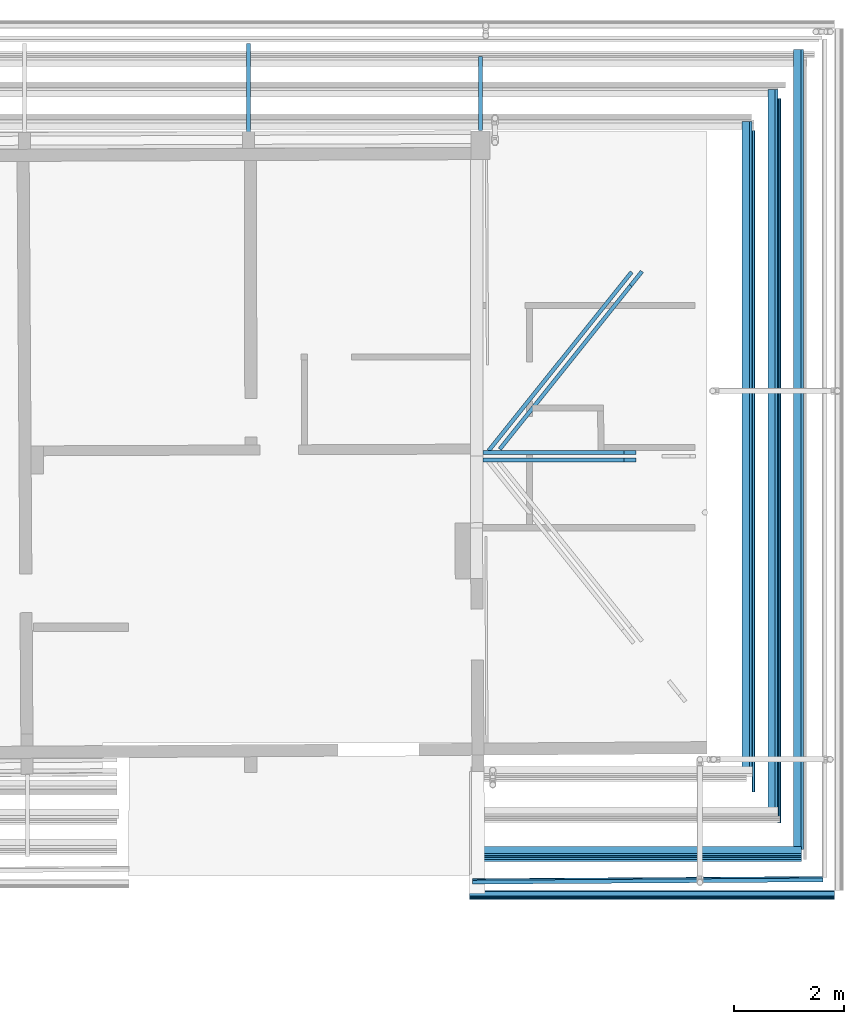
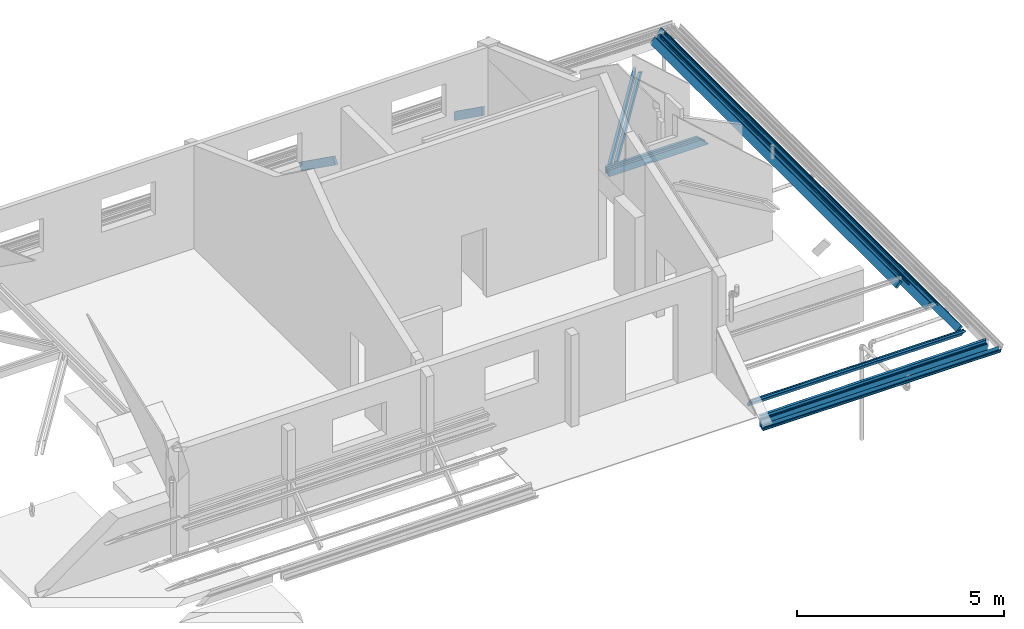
# One storey, part 5 of 15: 16 beams.
"""IFC2X3 building model written with IfcOpenShell, lengths in centimetres."""

from ifc_helpers import new_model, entity, si_unit, converted_unit, direction, frame, frame_2d, origin, place, context, subcontext, project, spatial, polyline, circle_curve, parameter, trimmed, segment, composite_curve, rectangle, outline, extrude, clip, halfspace, material, type_object, element, save


model = new_model("IFC2X3")

# Units and contexts
model_context = context("Model", 3, precision=0.001, world=frame((0.0, 0.0, 13090.0)), true_north=direction((6.123233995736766e-17, 1.0)))
body_context = subcontext(model_context, "Body", "Model", "MODEL_VIEW")
ifc_project = project(units=[si_unit("LENGTHUNIT", "METRE", prefix="CENTI"), si_unit("AREAUNIT", "SQUARE_METRE"), si_unit("VOLUMEUNIT", "CUBIC_METRE"), converted_unit("PLANEANGLEUNIT", "DEGREE", entity("IfcPlaneAngleMeasure", 0.017453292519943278), si_unit("PLANEANGLEUNIT", "RADIAN"), dimensions=[0, 0, 0, 0, 0, 0, 0])], contexts=[model_context])

# Site, building, storey
site_placement = place(None, origin())
site = spatial("IfcSite", under=ifc_project, at=site_placement, Name="Default", CompositionType="ELEMENT")
building_placement = place(site_placement, origin())
building = spatial("IfcBuilding", under=site, at=building_placement, Name="e 39 logements et 22 maisons relais", CompositionType="ELEMENT")
storey_placement = place(building_placement, frame((0.0, 0.0, 340.0)))
storey = spatial("IfcBuildingStorey", under=building, at=storey_placement, Name="R+1", CompositionType="ELEMENT", Elevation=339.99999999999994)

# Beams
ifc_material_1 = material(Name="Bois - Bois de construction de dimensions courantes")
beam_type_1 = type_object("IfcBeamType", Name="Poutre - Bois de construction de dimensions courantes:70 220", PredefinedType="BEAM")
beam_1_placement = place(storey_placement, frame((293.85058931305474, -746.0791297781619, 21.67532514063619)))
element("IfcBeam", 1, at=beam_1_placement, inside=storey, type_object=beam_type_1, material=ifc_material_1, Name="Poutre - Bois de construction de dimensions courantes:70 220", ObjectType="Poutre - Bois de construction de dimensions courantes:70 220", context=body_context, shape_type="SweptSolid", body=[
    extrude(rectangle(XDim=21.999999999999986, YDim=7.000000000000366, at=frame_2d((7.993605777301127e-15, 5.995204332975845e-14), x_axis=(1.0, 0.0))), frame((295.29196854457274, 6.309340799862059, -9.010672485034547), z_axis=(1.0, 0.0, 0.0), x_axis=(0.0, -0.5735764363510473, 0.819152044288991)), (0.0, 0.0, 1.0), 596.500667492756),
])
beam_2_placement = place(storey_placement, frame((182.75216677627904, 773.5851912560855, 29.76606766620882), z_axis=(0.0, 0.5804591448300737, 0.8142893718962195), x_axis=(0.0, -0.8142893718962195, 0.5804591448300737)))
element("IfcBeam", 2, at=beam_2_placement, inside=storey, type_object=beam_type_1, material=ifc_material_1, Name="Poutre - Bois de construction de dimensions courantes:70 220", ObjectType="Poutre - Bois de construction de dimensions courantes:70 220", context=body_context, shape_type="SweptSolid", body=[
    extrude(rectangle(XDim=22.000000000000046, YDim=7.00000000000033, at=frame_2d((-2.220446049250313e-14, -2.708944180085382e-14), x_axis=(1.0, 0.0))), frame((10.090585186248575, 0.0, -80.0), z_axis=(1.0, 0.0, 0.0), x_axis=(0.0, 0.0, -1.0)), (0.0, 0.0, 1.0), 201.65636044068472),
])
beam_3_placement = place(storey_placement, frame((603.4705547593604, 773.5851912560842, 29.76606766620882), z_axis=(0.0, 0.5804591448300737, 0.8142893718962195), x_axis=(0.0, -0.8142893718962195, 0.5804591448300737)))
element("IfcBeam", 3, at=beam_3_placement, inside=storey, type_object=beam_type_1, material=ifc_material_1, Name="Poutre - Bois de construction de dimensions courantes:70 220", ObjectType="Poutre - Bois de construction de dimensions courantes:70 220", context=body_context, shape_type="Clipping", body=[
    clip(clip(extrude(rectangle(XDim=22.000000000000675, YDim=7.000000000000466, at=frame_2d((-1.7319479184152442e-13, -5.417888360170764e-14), x_axis=(1.0, 0.0))), frame((22.397608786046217, 0.0, -80.0), z_axis=(1.0, 0.0, 0.0), x_axis=(0.0, 0.0, -1.0)), (0.0, 0.0, 1.0), 181.2427785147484), halfspace(frame((178.35627817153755, 211.71323505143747, -104.46947537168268), z_axis=(0.8142893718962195, 0.0, -0.5804591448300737), x_axis=(0.0, -1.0, 0.0)), False)), halfspace(frame((49.83773262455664, 211.71323505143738, -52.50598814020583), z_axis=(-0.8142893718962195, 0.0, 0.5804591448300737), x_axis=(0.0, -1.0, 0.0)), False)),
])
beam_4_placement = place(storey_placement, frame((293.8835695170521, -797.1111855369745, -1.3072963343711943), z_axis=(-2.1815716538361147e-05, -1.395159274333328e-07, 1.0), x_axis=(0.999979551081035, 0.006395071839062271, 2.1816162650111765e-05)))
element("IfcBeam", 4, at=beam_4_placement, inside=storey, type_object=beam_type_1, material=ifc_material_1, Name="Poutre - Bois de construction de dimensions courantes:70 220", ObjectType="Poutre - Bois de construction de dimensions courantes:70 220", context=body_context, shape_type="SweptSolid", body=[
    extrude(rectangle(XDim=21.999999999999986, YDim=7.000000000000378, at=frame_2d((2.6645352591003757e-14, -1.6231460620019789e-13), x_axis=(1.0, 0.0))), frame((295.29196854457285, 0.0, -10.999999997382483), z_axis=(1.0, 0.0, 0.0), x_axis=(0.0, 0.0, -1.0)), (0.0, 0.0, 1.0), 635.6494773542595),
])
beam_type_2 = type_object("IfcBeamType", Name="Poutre - Bois de construction de dimensions courantes:70 200", PredefinedType="BEAM")
beam_5_placement = place(storey_placement, frame((1187.0952202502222, 514.0076677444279, 29.635456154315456), z_axis=(0.0, 0.0, 1.0), x_axis=(0.0, -1.0, 0.0)))
element("IfcBeam", 5, at=beam_5_placement, inside=storey, type_object=beam_type_2, material=ifc_material_1, Name="Poutre - Bois de construction de dimensions courantes:70 200", ObjectType="Poutre - Bois de construction de dimensions courantes:70 200", context=body_context, shape_type="SweptSolid", body=[
    extrude(rectangle(XDim=20.00000000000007, YDim=7.000000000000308, at=frame_2d((7.238654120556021e-14, -7.993605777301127e-14), x_axis=(0.0, 1.0))), frame((-201.2318770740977, -6.691306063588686, -7.431448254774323), z_axis=(1.0, 0.0, 0.0), x_axis=(0.0, -0.7431448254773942, 0.6691306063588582)), (0.0, 0.0, 1.0), 1450.8088562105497),
])
beam_6_placement = place(storey_placement, frame((1140.4973745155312, 514.0076677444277, 71.51492485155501), z_axis=(0.0, 0.0, 1.0), x_axis=(0.0, -1.0, 0.0)))
element("IfcBeam", 6, at=beam_6_placement, inside=storey, type_object=beam_type_2, material=ifc_material_1, Name="Poutre - Bois de construction de dimensions courantes:70 200", ObjectType="Poutre - Bois de construction de dimensions courantes:70 200", context=body_context, shape_type="SweptSolid", body=[
    extrude(rectangle(XDim=20.000000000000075, YDim=7.000000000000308, at=frame_2d((3.6193270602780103e-14, -3.9968028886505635e-14), x_axis=(0.0, 1.0))), frame((-128.41320221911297, -6.691306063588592, -7.431448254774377), z_axis=(1.0, 0.0, 0.0), x_axis=(0.0, -0.7431448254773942, 0.6691306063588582)), (0.0, 0.0, 1.0), 1307.4177645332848),
])
beam_7_placement = place(storey_placement, frame((1093.6531846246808, 514.0076677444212, 113.51706608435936), z_axis=(0.0, 0.0, 1.0), x_axis=(0.0, -1.0, 0.0)))
element("IfcBeam", 7, at=beam_7_placement, inside=storey, type_object=beam_type_2, material=ifc_material_1, Name="Poutre - Bois de construction de dimensions courantes:70 200", ObjectType="Poutre - Bois de construction de dimensions courantes:70 200", context=body_context, shape_type="SweptSolid", body=[
    extrude(rectangle(XDim=20.000000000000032, YDim=7.000000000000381, at=frame_2d((-1.8207657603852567e-14, 1.9539925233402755e-14), x_axis=(0.0, 1.0))), frame((-70.66046009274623, -6.6913060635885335, -7.431448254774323), z_axis=(1.0, 0.0, 0.0), x_axis=(0.0, -0.7431448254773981, 0.669130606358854)), (0.0, 0.0, 1.0), 1188.2496799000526),
])
beam_8_placement = place(storey_placement, frame((728.2454692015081, -15.897903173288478, 266.32572503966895)))
element("IfcBeam", 8, at=beam_8_placement, inside=storey, type_object=beam_type_2, material=ifc_material_1, Name="Poutre - Bois de construction de dimensions courantes:70 200", ObjectType="Poutre - Bois de construction de dimensions courantes:70 200", context=body_context, shape_type="Clipping", body=[
    clip(extrude(rectangle(XDim=20.000000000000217, YDim=7.0000000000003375, at=frame_2d((-1.0835776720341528e-13, -1.7763568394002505e-15), x_axis=(1.0, 0.0))), frame((-120.55536861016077, 0.0, -10.0), z_axis=(1.0, 0.0, 0.0), x_axis=(0.0, 0.0, -1.0)), (0.0, 0.0, 1.0), 277.9261440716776), halfspace(frame((213.5542229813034, 342.05536861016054, -70.37604670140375), z_axis=(0.6675793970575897, 0.0, 0.7445386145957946), x_axis=(0.0, -1.0, 0.0)), False)),
])
beam_9_placement = place(storey_placement, frame((728.245469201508, -29.897903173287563, 266.32572503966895)))
element("IfcBeam", 9, at=beam_9_placement, inside=storey, type_object=beam_type_2, material=ifc_material_1, Name="Poutre - Bois de construction de dimensions courantes:70 200", ObjectType="Poutre - Bois de construction de dimensions courantes:70 200", context=body_context, shape_type="Clipping", body=[
    clip(extrude(rectangle(XDim=20.0, YDim=7.0000000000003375, at=frame_2d((0.0, -3.3306690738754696e-15), x_axis=(1.0, 0.0))), frame((-120.55536861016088, 0.0, -10.0), z_axis=(1.0, 0.0, 0.0), x_axis=(0.0, 0.0, -1.0)), (0.0, 0.0, 1.0), 277.9261440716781), halfspace(frame((213.55422298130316, 342.0553686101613, -70.37604670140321), z_axis=(0.6675793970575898, 0.0, 0.7445386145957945), x_axis=(0.0, -1.0, 0.0)), False)),
])
beam_10_placement = place(storey_placement, frame((688.1425548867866, 74.55343933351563, 266.32572503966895), z_axis=(0.0, 0.0, 1.0), x_axis=(0.6248402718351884, 0.7807526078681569, 0.0)))
element("IfcBeam", 10, at=beam_10_placement, inside=storey, type_object=beam_type_2, material=ifc_material_1, Name="Poutre - Bois de construction de dimensions courantes:70 200", ObjectType="Poutre - Bois de construction de dimensions courantes:70 200", context=body_context, shape_type="SweptSolid", body=[
    extrude(rectangle(XDim=20.0, YDim=7.000000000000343, at=frame_2d((0.0, -4.218847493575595e-15), x_axis=(1.0, 0.0))), frame((-111.60966560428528, 0.0, -10.0), z_axis=(1.0, 0.0, 0.0), x_axis=(0.0, 0.0, -1.0)), (0.0, 0.0, 1.0), 414.889912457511),
])
beam_11_placement = place(storey_placement, frame((699.073091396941, 65.80567552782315, 266.32572503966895), z_axis=(0.0, 0.0, 1.0), x_axis=(0.6248402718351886, 0.7807526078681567, 0.0)))
element("IfcBeam", 11, at=beam_11_placement, inside=storey, type_object=beam_type_2, material=ifc_material_1, Name="Poutre - Bois de construction de dimensions courantes:70 200", ObjectType="Poutre - Bois de construction de dimensions courantes:70 200", context=body_context, shape_type="Clipping", body=[
    clip(extrude(rectangle(XDim=20.0, YDim=7.000000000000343, at=frame_2d((4.218847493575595e-15, 0.0), x_axis=(0.0, 1.0))), frame((-97.10025792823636, 0.0, -10.0), z_axis=(1.0, 0.0, 0.0), x_axis=(0.0, 1.0, 0.0)), (0.0, 0.0, 1.0), 412.8013420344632), halfspace(frame((221.00747817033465, -412.8013420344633, 34.89691046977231), z_axis=(0.49070508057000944, 0.0, 0.8713257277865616), x_axis=(0.0, 1.0, 0.0)), False)),
])
ifc_material_2 = material(Name="neuf")
beam_type_3 = type_object("IfcBeamType", Name="gouttiere ALU G400:gouttiere ALU G400", PredefinedType="BEAM")
beam_12_placement = place(storey_placement, frame((741.669739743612, -810.895504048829, 16.283780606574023), z_axis=(0.0, 0.0, 1.0), x_axis=(-1.0, 0.0, 0.0)))
element("IfcBeam", 12, at=beam_12_placement, inside=storey, type_object=beam_type_3, material=ifc_material_2, Name="gouttiere ALU G400:gouttiere ALU G400", ObjectType="gouttiere ALU G400:gouttiere ALU G400", context=body_context, shape_type="SweptSolid", body=[
    extrude(outline(composite_curve([segment(polyline([(-6.028675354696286, -10.41814447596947), (4.91512518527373, -10.418144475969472)]), True, "CONTINUOUS"), segment(trimmed(circle_curve(frame_2d((4.482502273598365, -7.967211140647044), x_axis=(0.17382635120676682, -0.9847763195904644)), 2.4888223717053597), [parameter(0.0)], [parameter(79.98963375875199)], True, "PARAMETER"), True, "CONTINUOUS"), segment(polyline([(6.971324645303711, -7.96721114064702), (6.97132464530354, -1.467211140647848)]), True, "CONTINUOUS"), segment(trimmed(circle_curve(frame_2d((5.604531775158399, -1.4672111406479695), x_axis=(1.0, 0.0)), 1.366792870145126), [parameter(0.0)], [parameter(80.76228289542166)], True, "PARAMETER"), True, "CONTINUOUS"), segment(polyline([(5.823944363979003, -0.11814447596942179), (4.73839450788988, -0.11814447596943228)]), True, "CONTINUOUS"), segment(trimmed(circle_curve(frame_2d((4.738394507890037, 0.5488704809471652), x_axis=(0.0, -1.0)), 0.6670149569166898), [parameter(270.00000000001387)], [parameter(0.0)], True, "PARAMETER"), False, "CONTINUOUS"), segment(trimmed(circle_curve(frame_2d((2.6511667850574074, 0.5488704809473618), x_axis=(1.0, 0.0)), 1.4202127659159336), [parameter(0.0)], [parameter(75.70274320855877)], True, "PARAMETER"), True, "CONTINUOUS"), segment(polyline([(3.001892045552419, 1.9250957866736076), (-3.028080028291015, 2.8687394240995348)]), True, "CONTINUOUS"), segment(trimmed(circle_curve(frame_2d((-2.8287143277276, 3.633036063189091), x_axis=(-0.2524028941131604, -0.967622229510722)), 0.7898708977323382), [parameter(284.61974875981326)], [parameter(0.0)], True, "PARAMETER"), False, "CONTINUOUS"), segment(polyline([(-3.6185852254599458, 3.6330360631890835), (-3.6185852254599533, 4.392159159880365)]), True, "CONTINUOUS"), segment(trimmed(circle_curve(frame_2d((-4.410064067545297, 4.392159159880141), x_axis=(1.0, 0.0)), 0.7914788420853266), [parameter(0.0)], [parameter(89.9999999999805)], True, "PARAMETER"), True, "CONTINUOUS"), segment(polyline([(-4.410064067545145, 5.183638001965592), (-4.596964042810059, 5.1836380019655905)]), True, "CONTINUOUS"), segment(trimmed(circle_curve(frame_2d((-4.596964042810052, 4.455817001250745), x_axis=(0.0, 1.0)), 0.7278210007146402), [parameter(0.0)], [parameter(90.00000000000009)], True, "PARAMETER"), True, "CONTINUOUS"), segment(polyline([(-5.324785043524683, 4.455817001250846), (-5.5097352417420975, 2.7163227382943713)]), True, "CONTINUOUS"), segment(polyline([(-5.5097352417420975, 2.7163227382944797), (-5.30863358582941, 2.7163227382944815)]), True, "CONTINUOUS"), segment(polyline([(-5.30863358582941, 2.7163227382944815), (-5.126213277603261, 4.451936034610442)]), True, "CONTINUOUS"), segment(trimmed(circle_curve(frame_2d((-4.596293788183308, 4.451936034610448), x_axis=(-1.0, 0.0)), 0.5299194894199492), [parameter(269.99999999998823)], [parameter(0.0)], True, "PARAMETER"), False, "CONTINUOUS"), segment(polyline([(-4.5962937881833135, 4.981855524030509), (-4.409626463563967, 4.981855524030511)]), True, "CONTINUOUS"), segment(trimmed(circle_curve(frame_2d((-4.409626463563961, 4.391273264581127), x_axis=(0.0, 1.0)), 0.5905822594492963), [parameter(269.9999999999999)], [parameter(0.0)], True, "PARAMETER"), False, "CONTINUOUS"), segment(polyline([(-3.81904420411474, 4.3912732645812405), (-3.8190442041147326, 3.633116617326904)]), True, "CONTINUOUS"), segment(trimmed(circle_curve(frame_2d((-2.828956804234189, 3.633116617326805), x_axis=(-1.0, 0.0)), 0.99008739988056), [parameter(0.0)], [parameter(75.99999999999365)], True, "PARAMETER"), True, "CONTINUOUS"), segment(polyline([(-3.068480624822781, 2.6724390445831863), (2.9612947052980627, 1.7290144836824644)]), True, "CONTINUOUS"), segment(trimmed(circle_curve(frame_2d((2.6511667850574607, 0.5488704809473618), x_axis=(0.2541588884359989, 0.9671624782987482)), 1.2202127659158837), [parameter(284.72375106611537)], [parameter(0.0)], True, "PARAMETER"), False, "CONTINUOUS"), segment(trimmed(circle_curve(frame_2d((4.738394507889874, 0.5488704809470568), x_axis=(-1.0, 0.0)), 0.8670149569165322), [parameter(0.0)], [parameter(90.00000000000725)], True, "PARAMETER"), True, "CONTINUOUS"), segment(polyline([(4.738394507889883, -0.31814447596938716), (5.80714323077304, -0.31814447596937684)]), True, "CONTINUOUS"), segment(trimmed(circle_curve(frame_2d((5.6045317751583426, -1.4672111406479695), x_axis=(0.17364817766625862, 0.9848077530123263)), 1.166792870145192), [parameter(279.9999999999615)], [parameter(0.0)], True, "PARAMETER"), False, "CONTINUOUS"), segment(polyline([(6.771324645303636, -1.4672111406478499), (6.771324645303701, -7.96721114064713)]), True, "CONTINUOUS"), segment(trimmed(circle_curve(frame_2d((4.4825022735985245, -7.967211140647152), x_axis=(1.0, 0.0)), 2.2888223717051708), [parameter(280.43973077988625)], [parameter(0.0)], True, "PARAMETER"), False, "CONTINUOUS"), segment(polyline([(4.897239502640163, -10.218144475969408), (-6.028675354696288, -10.218144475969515)]), True, "CONTINUOUS"), segment(polyline([(-6.028675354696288, -10.218144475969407), (-6.028675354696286, -10.41814447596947)]), True, "CONTINUOUS")], self_intersect=False)), frame((-504.036911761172, 10.21814447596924, -27.028675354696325), z_axis=(1.0, 0.0, 0.0), x_axis=(0.0, 0.0, -1.0)), (0.0, 0.0, 1.0), 662.3108487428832),
])
beam_type_4 = type_object("IfcBeamType", Name="panne z:panne z", PredefinedType="BEAM")
beam_13_placement = place(storey_placement, frame((1157.6124503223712, 514.0076677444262, 94.92918457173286), z_axis=(0.0, 0.0, 1.0), x_axis=(0.0, -1.0, 0.0)))
element("IfcBeam", 13, at=beam_13_placement, inside=storey, type_object=beam_type_4, material=ifc_material_2, Name="panne z:panne z", ObjectType="panne z:panne z", context=body_context, shape_type="SweptSolid", body=[
    extrude(outline(composite_curve([segment(polyline([(0.3000000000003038, -3.0), (4.600000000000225, -3.0)]), True, "CONTINUOUS"), segment(trimmed(circle_curve(frame_2d((4.600000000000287, -2.5999999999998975), x_axis=(0.0, -1.0)), 0.3999999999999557), [parameter(0.0)], [parameter(90.00000000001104)], True, "PARAMETER"), True, "CONTINUOUS"), segment(polyline([(5.0, -2.599999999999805), (5.0, -1.0)]), True, "CONTINUOUS"), segment(polyline([(5.0, -1.0), (4.800000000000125, -1.0)]), True, "CONTINUOUS"), segment(polyline([(4.800000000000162, -1.0), (4.800000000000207, -2.5999999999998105)]), True, "CONTINUOUS"), segment(trimmed(circle_curve(frame_2d((4.600000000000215, -2.5999999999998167), x_axis=(1.0, 0.0)), 0.2000000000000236), [parameter(270.0000000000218)], [parameter(0.0)], True, "PARAMETER"), False, "CONTINUOUS"), segment(polyline([(4.600000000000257, -2.799999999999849), (0.3000000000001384, -2.79999999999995)]), True, "CONTINUOUS"), segment(trimmed(circle_curve(frame_2d((0.3000000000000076, -2.600000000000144), x_axis=(0.0, -1.0)), 0.19999999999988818), [parameter(269.9999999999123)], [parameter(0.0)], True, "PARAMETER"), False, "CONTINUOUS"), segment(polyline([(0.10000000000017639, -2.6000000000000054), (0.1000000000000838, 2.6000000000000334)]), True, "CONTINUOUS"), segment(trimmed(circle_curve(frame_2d((-0.30000000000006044, 2.599999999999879), x_axis=(1.0, 0.0)), 0.4000000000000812), [parameter(0.0)], [parameter(89.99999999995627)], True, "PARAMETER"), True, "CONTINUOUS"), segment(polyline([(-0.2999999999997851, 3.0), (-4.599999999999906, 3.0)]), True, "CONTINUOUS"), segment(trimmed(circle_curve(frame_2d((-4.599999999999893, 2.6000000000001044), x_axis=(0.0, 1.0)), 0.3999999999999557), [parameter(0.0)], [parameter(90.00000000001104)], True, "PARAMETER"), True, "CONTINUOUS"), segment(polyline([(-5.0, 2.600000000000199), (-5.0, 1.0)]), True, "CONTINUOUS"), segment(polyline([(-5.0, 1.0), (-4.7999999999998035, 1.0)]), True, "CONTINUOUS"), segment(polyline([(-4.7999999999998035, 1.0), (-4.7999999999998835, 2.600000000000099)]), True, "CONTINUOUS"), segment(trimmed(circle_curve(frame_2d((-4.599999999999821, 2.6000000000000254), x_axis=(-1.0, 0.0)), 0.2000000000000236), [parameter(270.0000000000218)], [parameter(0.0)], True, "PARAMETER"), False, "CONTINUOUS"), segment(polyline([(-4.599999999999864, 2.800000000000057), (-0.29999999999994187, 2.8000000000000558)]), True, "CONTINUOUS"), segment(trimmed(circle_curve(frame_2d((-0.29999999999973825, 2.600000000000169), x_axis=(0.0, 1.0)), 0.19999999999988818), [parameter(269.9999999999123)], [parameter(0.0)], True, "PARAMETER"), False, "CONTINUOUS"), segment(polyline([(-0.0999999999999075, 2.600000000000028), (-0.09999999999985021, -2.5999999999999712)]), True, "CONTINUOUS"), segment(trimmed(circle_curve(frame_2d((0.30000000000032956, -2.599999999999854), x_axis=(-1.0, 0.0)), 0.4000000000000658), [parameter(0.0)], [parameter(89.99999999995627)], True, "PARAMETER"), True, "CONTINUOUS")], self_intersect=False)), frame((-112.27329190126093, -12.500988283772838, -13.883754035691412), z_axis=(1.0, 0.0, 0.0), x_axis=(0.0, -0.7431448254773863, 0.6691306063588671)), (0.0, 0.0, 1.0), 1314.393028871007),
])
beam_14_placement = place(storey_placement, frame((1111.059399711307, 514.007667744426, 136.63156832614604), z_axis=(0.0, 0.0, 1.0), x_axis=(0.0, -1.0, 0.0)))
element("IfcBeam", 14, at=beam_14_placement, inside=storey, type_object=beam_type_4, material=ifc_material_2, Name="panne z:panne z", ObjectType="panne z:panne z", context=body_context, shape_type="SweptSolid", body=[
    extrude(outline(composite_curve([segment(polyline([(0.2999999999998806, -3.0), (4.599999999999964, -3.0)]), True, "CONTINUOUS"), segment(trimmed(circle_curve(frame_2d((4.600000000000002, -2.600000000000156), x_axis=(0.0, -1.0)), 0.3999999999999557), [parameter(0.0)], [parameter(90.00000000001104)], True, "PARAMETER"), True, "CONTINUOUS"), segment(polyline([(5.0, -2.6000000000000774), (5.0, -1.0)]), True, "CONTINUOUS"), segment(polyline([(5.0, -1.0), (4.799999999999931, -1.0)]), True, "CONTINUOUS"), segment(polyline([(4.799999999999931, -1.0), (4.799999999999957, -2.600000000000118)]), True, "CONTINUOUS"), segment(trimmed(circle_curve(frame_2d((4.5999999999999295, -2.600000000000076), x_axis=(1.0, 0.0)), 0.2000000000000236), [parameter(270.0000000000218)], [parameter(0.0)], True, "PARAMETER"), False, "CONTINUOUS"), segment(polyline([(4.599999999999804, -2.800000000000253), (0.2999999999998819, -2.8000000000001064)]), True, "CONTINUOUS"), segment(trimmed(circle_curve(frame_2d((0.29999999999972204, -2.600000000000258), x_axis=(0.0, -1.0)), 0.19999999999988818), [parameter(269.9999999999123)], [parameter(0.0)], True, "PARAMETER"), False, "CONTINUOUS"), segment(polyline([(0.09999999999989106, -2.6000000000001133), (0.10000000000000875, 2.599999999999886)]), True, "CONTINUOUS"), segment(trimmed(circle_curve(frame_2d((-0.3000000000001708, 2.5999999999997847), x_axis=(1.0, 0.0)), 0.4000000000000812), [parameter(0.0)], [parameter(89.99999999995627)], True, "PARAMETER"), True, "CONTINUOUS"), segment(polyline([(-0.3000000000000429, 3.0), (-4.599999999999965, 3.0)]), True, "CONTINUOUS"), segment(trimmed(circle_curve(frame_2d((-4.600000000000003, 2.600000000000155), x_axis=(0.0, 1.0)), 0.3999999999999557), [parameter(0.0)], [parameter(90.00000000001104)], True, "PARAMETER"), True, "CONTINUOUS"), segment(polyline([(-5.0, 2.600000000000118), (-5.0, 1.0)]), True, "CONTINUOUS"), segment(polyline([(-5.0, 1.0), (-4.799999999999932, 1.0)]), True, "CONTINUOUS"), segment(polyline([(-4.799999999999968, 1.0), (-4.799999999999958, 2.600000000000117)]), True, "CONTINUOUS"), segment(trimmed(circle_curve(frame_2d((-4.599999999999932, 2.600000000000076), x_axis=(-1.0, 0.0)), 0.2000000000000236), [parameter(270.0000000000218)], [parameter(0.0)], True, "PARAMETER"), False, "CONTINUOUS"), segment(polyline([(-4.600000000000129, 2.7999999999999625), (-0.3000000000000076, 2.7999999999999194)]), True, "CONTINUOUS"), segment(trimmed(circle_curve(frame_2d((-0.29999999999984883, 2.600000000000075), x_axis=(0.0, 1.0)), 0.19999999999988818), [parameter(269.9999999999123)], [parameter(0.0)], True, "PARAMETER"), False, "CONTINUOUS"), segment(polyline([(-0.0999999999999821, 2.5999999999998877), (-0.10000000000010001, -2.6000000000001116)]), True, "CONTINUOUS"), segment(trimmed(circle_curve(frame_2d((0.3000000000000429, -2.5999999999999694), x_axis=(-1.0, 0.0)), 0.4000000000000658), [parameter(0.0)], [parameter(89.99999999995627)], True, "PARAMETER"), True, "CONTINUOUS")], self_intersect=False)), frame((-53.45852822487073, -12.500988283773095, -13.883754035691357), z_axis=(1.0, 0.0, 0.0), x_axis=(0.0, -0.7431448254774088, 0.6691306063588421)), (0.0, 0.0, 1.0), 1199.1958923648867),
])
beam_15_placement = place(storey_placement, frame((286.6348077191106, -753.6471928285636, 29.59072640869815)))
element("IfcBeam", 15, at=beam_15_placement, inside=storey, type_object=beam_type_4, material=ifc_material_2, Name="panne z:panne z", ObjectType="panne z:panne z", context=body_context, shape_type="SweptSolid", body=[
    extrude(outline(composite_curve([segment(trimmed(circle_curve(frame_2d((-0.30000000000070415, 2.60000000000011), x_axis=(1.0, 0.0)), 0.399999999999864), [parameter(0.0)], [parameter(90.00000000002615)], True, "PARAMETER"), True, "CONTINUOUS"), segment(polyline([(-0.3000000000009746, 3.0), (-4.600000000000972, 3.0)]), True, "CONTINUOUS"), segment(trimmed(circle_curve(frame_2d((-4.600000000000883, 2.5999999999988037), x_axis=(0.0, 1.0)), 0.3999999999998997), [parameter(0.0)], [parameter(90.00000000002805)], True, "PARAMETER"), True, "CONTINUOUS"), segment(polyline([(-5.0, 2.5999999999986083), (-5.0, 1.0)]), True, "CONTINUOUS"), segment(polyline([(-5.0, 1.0), (-4.800000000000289, 1.0)]), True, "CONTINUOUS"), segment(polyline([(-4.800000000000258, 1.0), (-4.800000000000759, 2.599999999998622)]), True, "CONTINUOUS"), segment(trimmed(circle_curve(frame_2d((-4.600000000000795, 2.5999999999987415), x_axis=(-1.0, 0.0)), 0.20000000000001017), [parameter(270.00000000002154)], [parameter(0.0)], True, "PARAMETER"), False, "CONTINUOUS"), segment(polyline([(-4.600000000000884, 2.7999999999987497), (-0.3000000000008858, 2.7999999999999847)]), True, "CONTINUOUS"), segment(trimmed(circle_curve(frame_2d((-0.30000000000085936, 2.599999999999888), x_axis=(0.0, 1.0)), 0.20000000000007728), [parameter(270.00000000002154)], [parameter(0.0)], True, "PARAMETER"), False, "CONTINUOUS"), segment(polyline([(-0.100000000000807, 2.5999999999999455), (-0.09999999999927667, -2.600000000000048)]), True, "CONTINUOUS"), segment(trimmed(circle_curve(frame_2d((0.3000000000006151, -2.600000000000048), x_axis=(-1.0, 0.0)), 0.399999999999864), [parameter(0.0)], [parameter(90.00000000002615)], True, "PARAMETER"), True, "CONTINUOUS"), segment(polyline([(0.3000000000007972, -3.0), (4.600000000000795, -3.0)]), True, "CONTINUOUS"), segment(trimmed(circle_curve(frame_2d((4.6000000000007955, -2.5999999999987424), x_axis=(0.0, -1.0)), 0.3999999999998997), [parameter(0.0)], [parameter(90.00000000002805)], True, "PARAMETER"), True, "CONTINUOUS"), segment(polyline([(5.0, -2.5999999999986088), (5.0, -1.0)]), True, "CONTINUOUS"), segment(polyline([(5.0, -1.0), (4.8000000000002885, -1.0)]), True, "CONTINUOUS"), segment(polyline([(4.8000000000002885, -1.0), (4.800000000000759, -2.599999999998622)]), True, "CONTINUOUS"), segment(trimmed(circle_curve(frame_2d((4.600000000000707, -2.5999999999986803), x_axis=(1.0, 0.0)), 0.20000000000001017), [parameter(270.00000000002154)], [parameter(0.0)], True, "PARAMETER"), False, "CONTINUOUS"), segment(polyline([(4.6000000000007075, -2.799999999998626), (0.3000000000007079, -2.7999999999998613)]), True, "CONTINUOUS"), segment(trimmed(circle_curve(frame_2d((0.3000000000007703, -2.5999999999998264), x_axis=(0.0, -1.0)), 0.20000000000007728), [parameter(270.00000000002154)], [parameter(0.0)], True, "PARAMETER"), False, "CONTINUOUS"), segment(polyline([(0.10000000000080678, -2.5999999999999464), (0.09999999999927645, 2.6000000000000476)]), True, "CONTINUOUS")], self_intersect=False)), frame((302.3831025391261, 1.5385808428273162, -2.197321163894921), z_axis=(1.0, 0.0, 0.0), x_axis=(0.0, 0.8191520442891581, 0.5735764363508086)), (0.0, 0.0, 1.0), 596.6284104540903),
])
beam_type_5 = type_object("IfcBeamType", Name="panne z pente sup 35 deg 4:panne z pente sup 35 deg 4", PredefinedType="BEAM")
beam_16_placement = place(storey_placement, frame((286.74077874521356, -794.8453160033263, 7.614381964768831), z_axis=(0.0, 0.0, 1.0), x_axis=(0.9999795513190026, 0.006395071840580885, 0.0)))
element("IfcBeam", 16, at=beam_16_placement, inside=storey, type_object=beam_type_5, material=ifc_material_2, Name="panne z pente sup 35 deg 4:panne z pente sup 35 deg 4", ObjectType="panne z pente sup 35 deg 4:panne z pente sup 35 deg 4", context=body_context, shape_type="SweptSolid", body=[
    extrude(outline(composite_curve([segment(polyline([(2.8830245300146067, -4.745698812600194), (4.483024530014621, -4.745698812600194)]), True, "CONTINUOUS"), segment(trimmed(circle_curve(frame_2d((4.483024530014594, -4.345698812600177), x_axis=(0.0, -1.0)), 0.400000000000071), [parameter(0.0)], [parameter(89.99999999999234)], True, "PARAMETER"), True, "CONTINUOUS"), segment(polyline([(4.883024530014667, -4.345698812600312), (4.883024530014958, -0.04569881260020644)]), True, "CONTINUOUS"), segment(trimmed(circle_curve(frame_2d((4.483024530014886, -0.04569881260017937), x_axis=(1.0, 0.0)), 0.4000000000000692), [parameter(0.0)], [parameter(89.99999999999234)], True, "PARAMETER"), True, "CONTINUOUS"), segment(polyline([(4.4830245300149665, 0.35430118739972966), (-2.9375481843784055, 0.35430118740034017)]), True, "CONTINUOUS"), segment(trimmed(circle_curve(frame_2d((-2.871545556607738, 0.6467801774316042), x_axis=(-0.22013071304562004, -0.9754703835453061)), 0.299833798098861), [parameter(317.7167105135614)], [parameter(0.0)], True, "PARAMETER"), False, "CONTINUOUS"), segment(polyline([(-3.1171550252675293, 0.4748025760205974), (-5.655219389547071, 4.099534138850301)]), True, "CONTINUOUS"), segment(trimmed(circle_curve(frame_2d((-5.564903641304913, 4.151677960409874), x_axis=(-0.8660254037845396, -0.4999999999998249)), 0.10428764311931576), [parameter(240.0000000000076)], [parameter(0.0)], True, "PARAMETER"), False, "CONTINUOUS"), segment(polyline([(-5.564903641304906, 4.25596560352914), (-3.9649036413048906, 4.25596560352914)]), True, "CONTINUOUS"), segment(polyline([(-3.9649036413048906, 4.255965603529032), (-3.9649036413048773, 4.455965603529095)]), True, "CONTINUOUS"), segment(polyline([(-3.9649036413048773, 4.455965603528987), (-5.564903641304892, 4.4559656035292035)]), True, "CONTINUOUS"), segment(trimmed(circle_curve(frame_2d((-5.564903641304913, 4.151677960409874), x_axis=(0.0, 1.0)), 0.30428764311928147), [parameter(0.0)], [parameter(122.07346536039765)], True, "PARAMETER"), True, "CONTINUOUS"), segment(polyline([(-5.82274723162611, 3.9900993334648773), (-3.280985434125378, 0.36008728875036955)]), True, "CONTINUOUS"), segment(trimmed(circle_curve(frame_2d((-2.871545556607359, 0.6467801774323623), x_axis=(-0.8191520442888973, -0.5735764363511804)), 0.49983379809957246), [parameter(0.0)], [parameter(45.15888128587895)], True, "PARAMETER"), True, "CONTINUOUS"), segment(polyline([(-2.9569754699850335, 0.1543011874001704), (4.483024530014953, 0.15430118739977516)]), True, "CONTINUOUS"), segment(trimmed(circle_curve(frame_2d((4.483024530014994, -0.04569881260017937), x_axis=(0.0, 1.0)), 0.19999999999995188), [parameter(269.99999999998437)], [parameter(0.0)], True, "PARAMETER"), False, "CONTINUOUS"), segment(polyline([(4.683024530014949, -0.0456988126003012), (4.683024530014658, -4.34569881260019)]), True, "CONTINUOUS"), segment(trimmed(circle_curve(frame_2d((4.483024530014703, -4.345698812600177), x_axis=(1.0, 0.0)), 0.1999999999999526), [parameter(269.99999999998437)], [parameter(0.0)], True, "PARAMETER"), False, "CONTINUOUS"), segment(polyline([(4.483024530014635, -4.545698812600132), (2.88302453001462, -4.545698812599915)]), True, "CONTINUOUS"), segment(polyline([(2.88302453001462, -4.545698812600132), (2.8830245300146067, -4.745698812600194)]), True, "CONTINUOUS")], self_intersect=False)), frame((302.3831025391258, -0.2543011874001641, -2.9994093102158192), z_axis=(1.0, 0.0, 0.0), x_axis=(0.0, 0.0, -1.0)), (0.0, 0.0, 1.0), 634.8015467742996),
])

save(model, "model.ifc")
